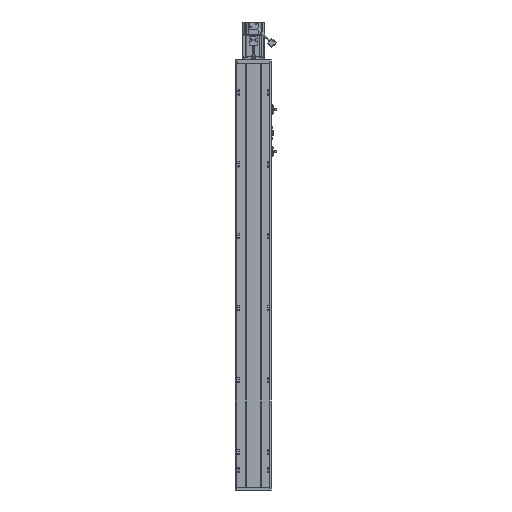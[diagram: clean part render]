
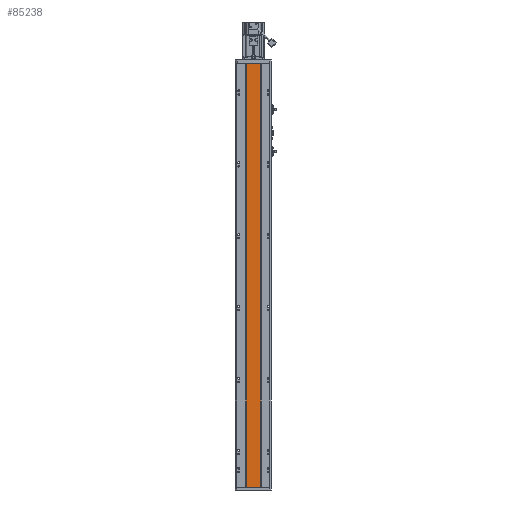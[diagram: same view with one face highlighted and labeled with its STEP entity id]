
A CAD part, front view. The second image highlights one B-rep face of the part: STEP entity #85238.
In plain terms, the highlighted planar face has unit normal (0, -1, 0).
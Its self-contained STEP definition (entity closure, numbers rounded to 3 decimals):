
#1495 = CARTESIAN_POINT ( 'NONE',  ( 20., 0., -1178.5 ) ) ;
#3804 = CARTESIAN_POINT ( 'NONE',  ( -20., 0., 0. ) ) ;
#6461 = EDGE_CURVE ( 'NONE', #79093, #105337, #95973, .T. ) ;
#7099 = EDGE_CURVE ( 'NONE', #105337, #93581, #39187, .T. ) ;
#7236 = EDGE_CURVE ( 'NONE', #95705, #93581, #81777, .T. ) ;
#7249 = EDGE_CURVE ( 'NONE', #79093, #95705, #81470, .T. ) ;
#15631 = CARTESIAN_POINT ( 'NONE',  ( 20., 0., -1178.5 ) ) ;
#18921 = DIRECTION ( 'NONE',  ( 0., 0., 1. ) ) ;
#19528 = PLANE ( 'NONE',  #44128 ) ;
#21404 = CARTESIAN_POINT ( 'NONE',  ( -20., 0., -1178.5 ) ) ;
#22912 = DIRECTION ( 'NONE',  ( -1., 0., 0. ) ) ;
#23124 = ORIENTED_EDGE ( 'NONE', *, *, #7099, .T. ) ;
#23842 = ORIENTED_EDGE ( 'NONE', *, *, #7236, .F. ) ;
#24212 = ORIENTED_EDGE ( 'NONE', *, *, #7249, .F. ) ;
#26914 = ORIENTED_EDGE ( 'NONE', *, *, #6461, .T. ) ;
#26933 = CARTESIAN_POINT ( 'NONE',  ( 20., 0., 0. ) ) ;
#27797 = CARTESIAN_POINT ( 'NONE',  ( 20., 0., -1178.5 ) ) ;
#33937 = EDGE_LOOP ( 'NONE', ( #23124, #23842, #24212, #26914 ) ) ;
#35526 = FACE_OUTER_BOUND ( 'NONE', #33937, .T. ) ;
#36011 = DIRECTION ( 'NONE',  ( 0., 1., 0. ) ) ;
#36506 = CARTESIAN_POINT ( 'NONE',  ( 20., 0., 0. ) ) ;
#39000 = VECTOR ( 'NONE', #22912, 1000. ) ;
#39187 = LINE ( 'NONE', #26933, #39000 ) ;
#44128 = AXIS2_PLACEMENT_3D ( 'NONE', #27797, #36011, #92659 ) ;
#79093 = VERTEX_POINT ( 'NONE', #1495 ) ;
#80955 = VECTOR ( 'NONE', #91271, 1000. ) ;
#81470 = LINE ( 'NONE', #99063, #80955 ) ;
#81777 = LINE ( 'NONE', #91763, #82804 ) ;
#82804 = VECTOR ( 'NONE', #91604, 1000. ) ;
#85238 = ADVANCED_FACE ( 'NONE', ( #35526 ), #19528, .F. ) ;
#91271 = DIRECTION ( 'NONE',  ( -1., 0., 0. ) ) ;
#91604 = DIRECTION ( 'NONE',  ( 0., 0., 1. ) ) ;
#91763 = CARTESIAN_POINT ( 'NONE',  ( -20., 0., -1178.5 ) ) ;
#92659 = DIRECTION ( 'NONE',  ( -1., 0., 0. ) ) ;
#93581 = VERTEX_POINT ( 'NONE', #3804 ) ;
#95705 = VERTEX_POINT ( 'NONE', #21404 ) ;
#95973 = LINE ( 'NONE', #15631, #98426 ) ;
#98426 = VECTOR ( 'NONE', #18921, 1000. ) ;
#99063 = CARTESIAN_POINT ( 'NONE',  ( 20., 0., -1178.5 ) ) ;
#105337 = VERTEX_POINT ( 'NONE', #36506 ) ;
